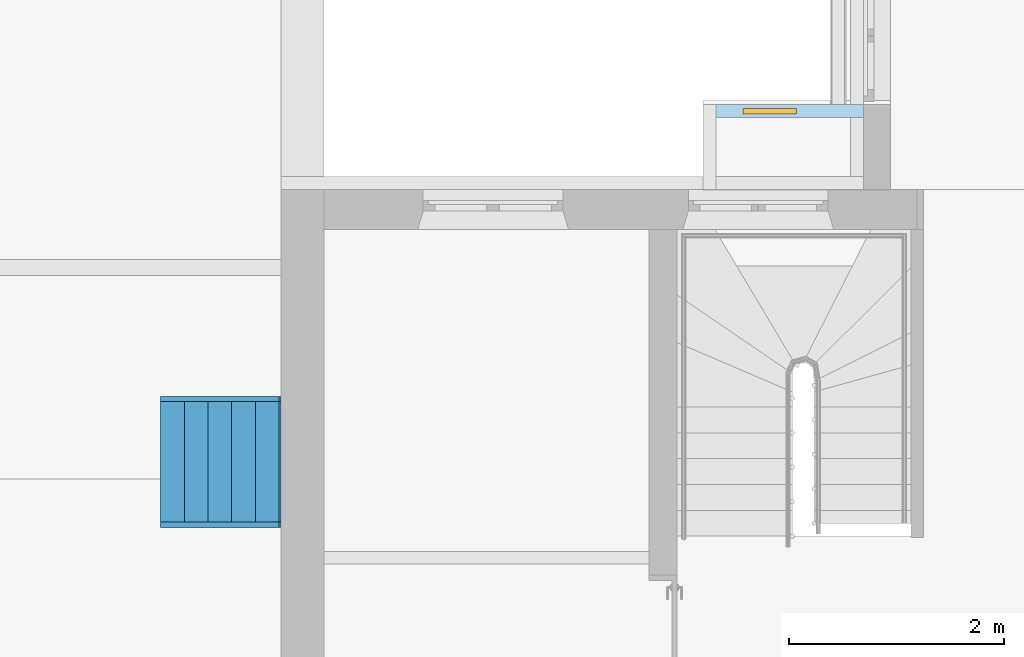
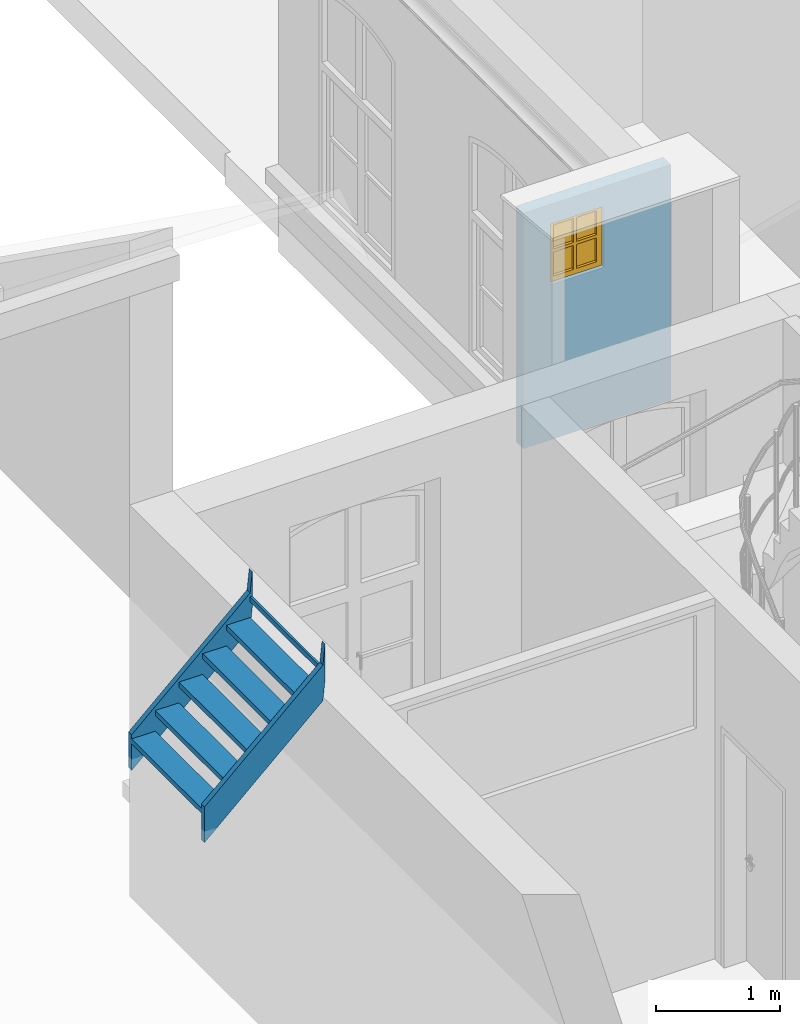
"""IFC4 building model written with IfcOpenShell, lengths in metres."""

from ifc_helpers import new_model, entity, si_unit, converted_unit, derived_unit, frame, frame_2d, origin, origin_with_axes, place, context, subcontext, project, spatial, polyline, rectangle, outline, extrude, closed_shell, open_shell, faceted_brep, surface_model, source, transform, mapped, material, layer, layer_set, layer_usage, element, fill, save


model = new_model("IFC4")

# Units and contexts
model_context = context("Model", 3, precision=1e-05, world=origin())
body_context = subcontext(model_context, "Body", "Model", "MODEL_VIEW")
ifc_project = project(units=[si_unit("LENGTHUNIT", "METRE"), si_unit("AREAUNIT", "SQUARE_METRE"), si_unit("VOLUMEUNIT", "CUBIC_METRE"), si_unit("MASSUNIT", "GRAM", prefix="KILO"), converted_unit("PLANEANGLEUNIT", "DEGREE", entity("IfcPlaneAngleMeasure", 0.0174532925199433), si_unit("PLANEANGLEUNIT", "RADIAN"), dimensions=[0, 0, 0, 0, 0, 0, 0]), derived_unit("THERMALTRANSMITTANCEUNIT", [(si_unit("POWERUNIT", "WATT"), 1), (si_unit("THERMODYNAMICTEMPERATUREUNIT", "KELVIN"), -1), (si_unit("LENGTHUNIT", "METRE"), -2)]), derived_unit("VOLUMETRICFLOWRATEUNIT", [(si_unit("LENGTHUNIT", "METRE"), 3), (converted_unit("TIMEUNIT", "hour", entity("IfcTimeMeasure", 3600.0), si_unit("TIMEUNIT", "SECOND"), dimensions=[0, 0, 1, 0, 0, 0, 0]), -1), (si_unit("LENGTHUNIT", "METRE"), -1)])], contexts=[model_context])

# Building, storeys
building_placement = place(None, origin())
building = spatial("IfcBuilding", under=ifc_project, at=building_placement, Name="Bestandsgebäude A - Sporthalle / Wohnhaus (TB 100-499)   ANPASSEN !!!", CompositionType="ELEMENT")
storey_1_placement = place(building_placement, frame((0.0, 0.0, 3.87)))
storey_1 = spatial("IfcBuildingStorey", under=building, at=storey_1_placement, Name="Geb. A 1. Obergeschoss (TB 250-299)", CompositionType="ELEMENT", Elevation=3.87)
storey_2_placement = place(storey_1_placement, frame((0.0, 0.0, 3.87)))
storey_2 = spatial("IfcBuildingStorey", under=storey_1, at=storey_2_placement, Name="Architektur (TB 250-259)", CompositionType="PARTIAL")

# Wall, opening, window
ifc_material_1 = material(Name="concrete")
ifc_layer = layer(ifc_material_1, 0.12)
ifc_layer_set = layer_set([ifc_layer])
ifc_layer_usage = layer_usage(ifc_layer_set, "AXIS2", "POSITIVE", 0.0)
wall_placement = place(storey_2_placement, frame((-3.49000000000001, 10.04, -1.7), z_axis=(0.0, 0.0, 1.0), x_axis=(-1.0, 0.0, 0.0)))
wall = element("IfcWall", 1, at=wall_placement, inside=storey_2, material=ifc_layer_usage, Name="reinforced - bearing", PredefinedType="USERDEFINED", context=body_context, shape_type="SweptSolid", body=[
    extrude(rectangle(XDim=1.37, YDim=0.12, at=frame_2d((0.684999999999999, 0.06), x_axis=(1.0, 0.0))), origin_with_axes(), (0.0, 0.0, 1.0), 2.31),
])
opening_placement = place(wall_placement, frame((0.620717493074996, 0.0, 1.52), z_axis=(0.0, 1.0, 0.0), x_axis=(0.0, 0.0, 1.0)))
opening = element("IfcOpeningElement", 2, at=opening_placement, cuts=wall, Name="Window opening", PredefinedType="OPENING", context=body_context, shape_type="SweptSolid", body=[
    extrude(outline(polyline([(0.600000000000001, 0.5), (0.600000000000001, 0.0), (0.0, 0.0), (0.0, 0.5), (0.600000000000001, 0.5)])), origin_with_axes(), (0.0, 0.0, 1.0), 0.12),
])
shared_shape = source(origin_with_axes(), body_context, "Body", "SurfaceModel", [
    surface_model("IfcShellBasedSurfaceModel", [(0.5, 0.0, 0.6), (0.5, 0.0, 0.0), (0.45, 0.0, 0.0), (0.45, 0.0, 0.6), (0.5, 0.05, 0.0), (0.5, 0.05, 0.6), (0.45, 0.05, 0.6), (0.45, 0.05, 0.0)], [closed_shell([[[0, 1, 2, 3]], [[4, 5, 6, 7]], [[1, 0, 5, 4]], [[2, 1, 4, 7]], [[3, 2, 7, 6]], [[0, 3, 6, 5]]], orient=[[False], [False], [False], [False], [False], [False]])]),
    surface_model("IfcShellBasedSurfaceModel", [(0.05, 0.0, 0.6), (0.05, 0.0, 0.0), (0.0, 0.0, 0.0), (0.0, 0.0, 0.6), (0.05, 0.05, 0.0), (0.05, 0.05, 0.6), (0.0, 0.05, 0.6), (0.0, 0.05, 0.0)], [closed_shell([[[0, 1, 2, 3]], [[4, 5, 6, 7]], [[1, 0, 5, 4]], [[2, 1, 4, 7]], [[3, 2, 7, 6]], [[0, 3, 6, 5]]], orient=[[False], [False], [False], [False], [False], [False]])]),
    surface_model("IfcShellBasedSurfaceModel", [(0.45, 0.0, 0.05), (0.45, 0.0, 0.0), (0.05, 0.0, 0.0), (0.05, 0.0, 0.05), (0.45, 0.05, 0.0), (0.45, 0.05, 0.05), (0.05, 0.05, 0.05), (0.05, 0.05, 0.0)], [closed_shell([[[0, 1, 2, 3]], [[4, 5, 6, 7]], [[1, 0, 5, 4]], [[2, 1, 4, 7]], [[3, 2, 7, 6]], [[0, 3, 6, 5]]], orient=[[False], [False], [False], [False], [False], [False]])]),
    surface_model("IfcShellBasedSurfaceModel", [(0.45, 0.0, 0.6), (0.45, 0.0, 0.55), (0.05, 0.0, 0.55), (0.05, 0.0, 0.6), (0.45, 0.05, 0.55), (0.45, 0.05, 0.6), (0.05, 0.05, 0.6), (0.05, 0.05, 0.55)], [closed_shell([[[0, 1, 2, 3]], [[4, 5, 6, 7]], [[1, 0, 5, 4]], [[2, 1, 4, 7]], [[3, 2, 7, 6]], [[0, 3, 6, 5]]], orient=[[False], [False], [False], [False], [False], [False]])]),
    surface_model("IfcShellBasedSurfaceModel", [(0.265, 0.0, 0.55), (0.265, 0.0, 0.05), (0.235, 0.0, 0.05), (0.235, 0.0, 0.55), (0.265, 0.05, 0.05), (0.265, 0.05, 0.55), (0.235, 0.05, 0.55), (0.235, 0.05, 0.05)], [closed_shell([[[0, 1, 2, 3]], [[4, 5, 6, 7]], [[1, 0, 5, 4]], [[2, 1, 4, 7]], [[3, 2, 7, 6]], [[0, 3, 6, 5]]], orient=[[False], [False], [False], [False], [False], [False]])]),
    surface_model("IfcShellBasedSurfaceModel", [(0.45, 0.0, 0.315), (0.45, 0.0, 0.285), (0.265, 0.0, 0.285), (0.265, 0.0, 0.315), (0.45, 0.05, 0.285), (0.45, 0.05, 0.315), (0.265, 0.05, 0.315), (0.265, 0.05, 0.285)], [closed_shell([[[0, 1, 2, 3]], [[4, 5, 6, 7]], [[1, 0, 5, 4]], [[2, 1, 4, 7]], [[3, 2, 7, 6]], [[0, 3, 6, 5]]], orient=[[False], [False], [False], [False], [False], [False]])]),
    surface_model("IfcShellBasedSurfaceModel", [(0.235, 0.0, 0.315), (0.235, 0.0, 0.285), (0.05, 0.0, 0.285), (0.05, 0.0, 0.315), (0.235, 0.05, 0.285), (0.235, 0.05, 0.315), (0.05, 0.05, 0.315), (0.05, 0.05, 0.285)], [closed_shell([[[0, 1, 2, 3]], [[4, 5, 6, 7]], [[1, 0, 5, 4]], [[2, 1, 4, 7]], [[3, 2, 7, 6]], [[0, 3, 6, 5]]], orient=[[False], [False], [False], [False], [False], [False]])]),
    surface_model("IfcShellBasedSurfaceModel", [(0.45, 0.025, 0.05), (0.265, 0.025, 0.05), (0.265, 0.025, 0.285), (0.45, 0.025, 0.285)], [open_shell([[[0, 1, 2, 3]]], orient=[[False]])]),
    surface_model("IfcShellBasedSurfaceModel", [(0.45, 0.025, 0.315), (0.265, 0.025, 0.315), (0.265, 0.025, 0.55), (0.45, 0.025, 0.55)], [open_shell([[[0, 1, 2, 3]]], orient=[[False]])]),
    surface_model("IfcShellBasedSurfaceModel", [(0.235, 0.025, 0.05), (0.05, 0.025, 0.05), (0.05, 0.025, 0.285), (0.235, 0.025, 0.285)], [open_shell([[[0, 1, 2, 3]]], orient=[[False]])]),
    surface_model("IfcShellBasedSurfaceModel", [(0.235, 0.025, 0.315), (0.05, 0.025, 0.315), (0.05, 0.025, 0.55), (0.235, 0.025, 0.55)], [open_shell([[[0, 1, 2, 3]]], orient=[[False]])]),
])
window_placement = place(opening_placement, frame((0.0, 0.5, 0.085), z_axis=(1.0, 0.0, 0.0), x_axis=(0.0, -1.0, 0.0)))
window = element("IfcWindow", 3, at=window_placement, inside=storey_2, Name="Window", OverallHeight=0.6, OverallWidth=0.5, PartitioningType="USERDEFINED", PredefinedType="WINDOW", context=body_context, shape_type="MappedRepresentation", body=[
    mapped(shared_shape, transform((0.0, 0.0, 0.0), x_axis=(1.0, 0.0, 0.0), y_axis=(0.0, 1.0, 0.0), z_axis=(0.0, 0.0, 1.0), scale=1.0)),
])
fill(opening, window)

# Stair
ifc_material_2 = material(Name="Free-Form Stair")
stair_placement = place(storey_2_placement, frame((-10.02, 6.11, -1.44833333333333)))
element("IfcStair", 4, at=stair_placement, inside=storey_2, material=ifc_material_2, PredefinedType="NOTDEFINED", context=body_context, shape_type="Brep", body=[
    faceted_brep([(1.11999999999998, 1.17, 1.26833333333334), (1.1, 1.17, 1.26833333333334), (1.1, 0.05, 1.26833333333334), (1.11999999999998, 0.05, 1.26833333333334), (1.1, 1.17, 1.31833333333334), (1.11999999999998, 1.17, 1.31833333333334), (1.11999999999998, 0.05, 1.31833333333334), (1.1, 0.05, 1.31833333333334)], [[[0, 1, 2, 3]], [[4, 5, 6, 7]], [[1, 0, 5, 4]], [[2, 1, 4, 7]], [[3, 2, 7, 6]], [[0, 3, 6, 5]]], orient=[[False], [False], [False], [False], [False], [False]]),
    faceted_brep([(1.1, 1.17, 1.06666666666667), (0.879999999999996, 1.17, 1.06666666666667), (0.879999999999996, 0.05, 1.06666666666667), (1.1, 0.05, 1.06666666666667), (0.879999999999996, 1.17, 1.11666666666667), (1.1, 1.17, 1.11666666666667), (1.1, 0.05, 1.11666666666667), (0.879999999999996, 0.05, 1.11666666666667)], [[[0, 1, 2, 3]], [[4, 5, 6, 7]], [[1, 0, 5, 4]], [[2, 1, 4, 7]], [[3, 2, 7, 6]], [[0, 3, 6, 5]]], orient=[[False], [False], [False], [False], [False], [False]]),
    faceted_brep([(0.879999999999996, 1.17, 0.865000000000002), (0.659999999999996, 1.17, 0.865000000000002), (0.659999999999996, 0.05, 0.865000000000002), (0.879999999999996, 0.05, 0.865000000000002), (0.659999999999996, 1.17, 0.915000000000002), (0.879999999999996, 1.17, 0.915000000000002), (0.879999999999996, 0.05, 0.915000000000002), (0.659999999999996, 0.05, 0.915000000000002)], [[[0, 1, 2, 3]], [[4, 5, 6, 7]], [[1, 0, 5, 4]], [[2, 1, 4, 7]], [[3, 2, 7, 6]], [[0, 3, 6, 5]]], orient=[[False], [False], [False], [False], [False], [False]]),
    faceted_brep([(0.659999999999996, 1.17, 0.663333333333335), (0.439999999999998, 1.17, 0.663333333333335), (0.439999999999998, 0.0500000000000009, 0.663333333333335), (0.659999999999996, 0.05, 0.663333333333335), (0.439999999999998, 1.17, 0.713333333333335), (0.659999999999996, 1.17, 0.713333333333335), (0.659999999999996, 0.05, 0.713333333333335), (0.439999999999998, 0.0500000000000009, 0.713333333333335)], [[[0, 1, 2, 3]], [[4, 5, 6, 7]], [[1, 0, 5, 4]], [[2, 1, 4, 7]], [[3, 2, 7, 6]], [[0, 3, 6, 5]]], orient=[[False], [False], [False], [False], [False], [False]]),
    faceted_brep([(0.439999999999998, 1.17, 0.461666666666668), (0.22, 1.17, 0.461666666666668), (0.22, 0.0500000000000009, 0.461666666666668), (0.439999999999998, 0.0500000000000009, 0.461666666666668), (0.22, 1.17, 0.511666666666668), (0.439999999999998, 1.17, 0.511666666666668), (0.439999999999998, 0.0500000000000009, 0.511666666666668), (0.22, 0.0500000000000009, 0.511666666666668)], [[[0, 1, 2, 3]], [[4, 5, 6, 7]], [[1, 0, 5, 4]], [[2, 1, 4, 7]], [[3, 2, 7, 6]], [[0, 3, 6, 5]]], orient=[[False], [False], [False], [False], [False], [False]]),
    faceted_brep([(0.22, 1.17, 0.260000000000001), (0.0, 1.17, 0.260000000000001), (0.0, 0.0500000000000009, 0.260000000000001), (0.22, 0.0500000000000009, 0.260000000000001), (0.0, 1.17, 0.310000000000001), (0.22, 1.17, 0.310000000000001), (0.22, 0.0500000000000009, 0.310000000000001), (0.0, 0.0500000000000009, 0.310000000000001)], [[[0, 1, 2, 3]], [[4, 5, 6, 7]], [[1, 0, 5, 4]], [[2, 1, 4, 7]], [[3, 2, 7, 6]], [[0, 3, 6, 5]]], orient=[[False], [False], [False], [False], [False], [False]]),
    faceted_brep([(1.1, 0.0, 1.00833333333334), (1.11999999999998, 0.0, 1.21), (1.11999999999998, 0.0500000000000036, 1.21), (1.1, 0.0500000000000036, 1.00833333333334), (1.1, 0.0, 1.35833333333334), (1.1, 0.0500000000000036, 1.35833333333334), (1.11999999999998, 0.0500000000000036, 1.56), (1.11999999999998, 0.0, 1.56)], [[[0, 1, 2, 3]], [[4, 5, 6, 7]], [[3, 5, 4, 0]], [[0, 4, 7, 1]], [[1, 7, 6, 2]], [[2, 6, 5, 3]]], orient=[[False], [False], [False], [False], [False], [False]]),
    faceted_brep([(0.879999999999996, 0.0, 0.806666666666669), (1.1, 0.0, 1.00833333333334), (1.1, 0.0500000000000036, 1.00833333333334), (0.879999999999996, 0.0500000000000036, 0.806666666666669), (0.879999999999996, 0.0, 1.15666666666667), (0.879999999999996, 0.0500000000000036, 1.15666666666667), (1.1, 0.0500000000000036, 1.35833333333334), (1.1, 0.0, 1.35833333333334)], [[[0, 1, 2, 3]], [[4, 5, 6, 7]], [[3, 5, 4, 0]], [[0, 4, 7, 1]], [[1, 7, 6, 2]], [[2, 6, 5, 3]]], orient=[[False], [False], [False], [False], [False], [False]]),
    faceted_brep([(0.659999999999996, 0.0, 0.605000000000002), (0.879999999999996, 0.0, 0.806666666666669), (0.879999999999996, 0.0500000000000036, 0.806666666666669), (0.659999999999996, 0.0500000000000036, 0.605000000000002), (0.659999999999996, 0.0, 0.955000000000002), (0.659999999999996, 0.0500000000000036, 0.955000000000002), (0.879999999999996, 0.0500000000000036, 1.15666666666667), (0.879999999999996, 0.0, 1.15666666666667)], [[[0, 1, 2, 3]], [[4, 5, 6, 7]], [[3, 5, 4, 0]], [[0, 4, 7, 1]], [[1, 7, 6, 2]], [[2, 6, 5, 3]]], orient=[[False], [False], [False], [False], [False], [False]]),
    faceted_brep([(0.439999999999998, 0.0, 0.403333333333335), (0.659999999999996, 0.0, 0.605000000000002), (0.659999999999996, 0.0500000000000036, 0.605000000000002), (0.439999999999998, 0.0500000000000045, 0.403333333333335), (0.439999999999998, 0.0, 0.753333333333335), (0.439999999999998, 0.0500000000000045, 0.753333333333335), (0.659999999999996, 0.0500000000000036, 0.955000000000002), (0.659999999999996, 0.0, 0.955000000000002)], [[[0, 1, 2, 3]], [[4, 5, 6, 7]], [[3, 5, 4, 0]], [[0, 4, 7, 1]], [[1, 7, 6, 2]], [[2, 6, 5, 3]]], orient=[[False], [False], [False], [False], [False], [False]]),
    faceted_brep([(0.22, 0.0, 0.201666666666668), (0.439999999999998, 0.0, 0.403333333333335), (0.439999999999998, 0.0500000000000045, 0.403333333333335), (0.22, 0.0500000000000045, 0.201666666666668), (0.22, 0.0, 0.551666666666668), (0.22, 0.0500000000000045, 0.551666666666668), (0.439999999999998, 0.0500000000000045, 0.753333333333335), (0.439999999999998, 0.0, 0.753333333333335)], [[[0, 1, 2, 3]], [[4, 5, 6, 7]], [[3, 5, 4, 0]], [[0, 4, 7, 1]], [[1, 7, 6, 2]], [[2, 6, 5, 3]]], orient=[[False], [False], [False], [False], [False], [False]]),
    faceted_brep([(0.0, 0.0, 0.0), (0.22, 0.0, 0.201666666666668), (0.22, 0.0500000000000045, 0.201666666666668), (0.0, 0.0500000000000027, 0.0), (0.0, 0.0, 0.350000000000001), (0.0, 0.0500000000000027, 0.350000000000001), (0.22, 0.0500000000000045, 0.551666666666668), (0.22, 0.0, 0.551666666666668)], [[[0, 1, 2, 3]], [[4, 5, 6, 7]], [[3, 5, 4, 0]], [[0, 4, 7, 1]], [[1, 7, 6, 2]], [[2, 6, 5, 3]]], orient=[[False], [False], [False], [False], [False], [False]]),
    faceted_brep([(1.1, 1.17, 1.00833333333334), (1.11999999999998, 1.17, 1.21), (1.11999999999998, 1.22, 1.21), (1.1, 1.22, 1.00833333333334), (1.1, 1.17, 1.35833333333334), (1.1, 1.22, 1.35833333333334), (1.11999999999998, 1.22, 1.56), (1.11999999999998, 1.17, 1.56)], [[[0, 1, 2, 3]], [[4, 5, 6, 7]], [[3, 5, 4, 0]], [[0, 4, 7, 1]], [[1, 7, 6, 2]], [[2, 6, 5, 3]]], orient=[[False], [False], [False], [False], [False], [False]]),
    faceted_brep([(0.879999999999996, 1.17, 0.806666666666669), (1.1, 1.17, 1.00833333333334), (1.1, 1.22, 1.00833333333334), (0.879999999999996, 1.22, 0.806666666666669), (0.879999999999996, 1.17, 1.15666666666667), (0.879999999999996, 1.22, 1.15666666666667), (1.1, 1.22, 1.35833333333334), (1.1, 1.17, 1.35833333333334)], [[[0, 1, 2, 3]], [[4, 5, 6, 7]], [[3, 5, 4, 0]], [[0, 4, 7, 1]], [[1, 7, 6, 2]], [[2, 6, 5, 3]]], orient=[[False], [False], [False], [False], [False], [False]]),
    faceted_brep([(0.659999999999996, 1.17, 0.605000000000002), (0.879999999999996, 1.17, 0.806666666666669), (0.879999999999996, 1.22, 0.806666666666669), (0.659999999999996, 1.22, 0.605000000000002), (0.659999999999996, 1.17, 0.955000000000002), (0.659999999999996, 1.22, 0.955000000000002), (0.879999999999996, 1.22, 1.15666666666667), (0.879999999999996, 1.17, 1.15666666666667)], [[[0, 1, 2, 3]], [[4, 5, 6, 7]], [[3, 5, 4, 0]], [[0, 4, 7, 1]], [[1, 7, 6, 2]], [[2, 6, 5, 3]]], orient=[[False], [False], [False], [False], [False], [False]]),
    faceted_brep([(0.439999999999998, 1.17, 0.403333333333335), (0.659999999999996, 1.17, 0.605000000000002), (0.659999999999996, 1.22, 0.605000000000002), (0.439999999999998, 1.22, 0.403333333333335), (0.439999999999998, 1.17, 0.753333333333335), (0.439999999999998, 1.22, 0.753333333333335), (0.659999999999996, 1.22, 0.955000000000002), (0.659999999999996, 1.17, 0.955000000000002)], [[[0, 1, 2, 3]], [[4, 5, 6, 7]], [[3, 5, 4, 0]], [[0, 4, 7, 1]], [[1, 7, 6, 2]], [[2, 6, 5, 3]]], orient=[[False], [False], [False], [False], [False], [False]]),
    faceted_brep([(0.22, 1.17, 0.201666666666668), (0.439999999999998, 1.17, 0.403333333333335), (0.439999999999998, 1.22, 0.403333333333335), (0.22, 1.22, 0.201666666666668), (0.22, 1.17, 0.551666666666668), (0.22, 1.22, 0.551666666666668), (0.439999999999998, 1.22, 0.753333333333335), (0.439999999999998, 1.17, 0.753333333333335)], [[[0, 1, 2, 3]], [[4, 5, 6, 7]], [[3, 5, 4, 0]], [[0, 4, 7, 1]], [[1, 7, 6, 2]], [[2, 6, 5, 3]]], orient=[[False], [False], [False], [False], [False], [False]]),
    faceted_brep([(0.0, 1.17, 0.0), (0.22, 1.17, 0.201666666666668), (0.22, 1.22, 0.201666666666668), (0.0, 1.22, 0.0), (0.0, 1.17, 0.350000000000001), (0.0, 1.22, 0.350000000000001), (0.22, 1.22, 0.551666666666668), (0.22, 1.17, 0.551666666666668)], [[[0, 1, 2, 3]], [[4, 5, 6, 7]], [[3, 5, 4, 0]], [[0, 4, 7, 1]], [[1, 7, 6, 2]], [[2, 6, 5, 3]]], orient=[[False], [False], [False], [False], [False], [False]]),
])

save(model, "model.ifc")
